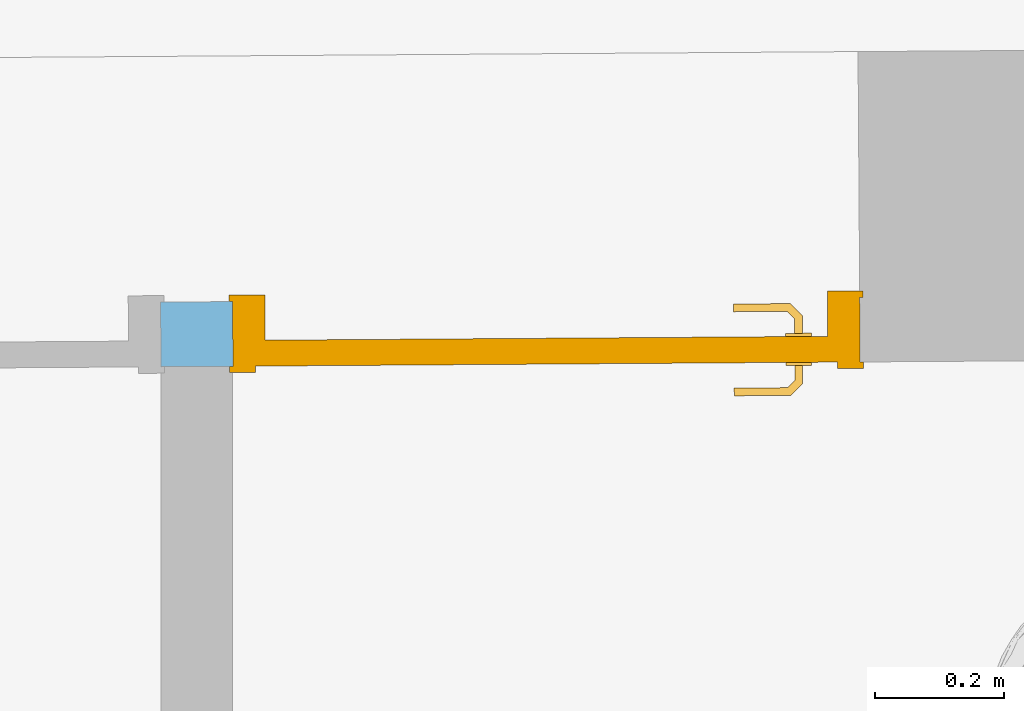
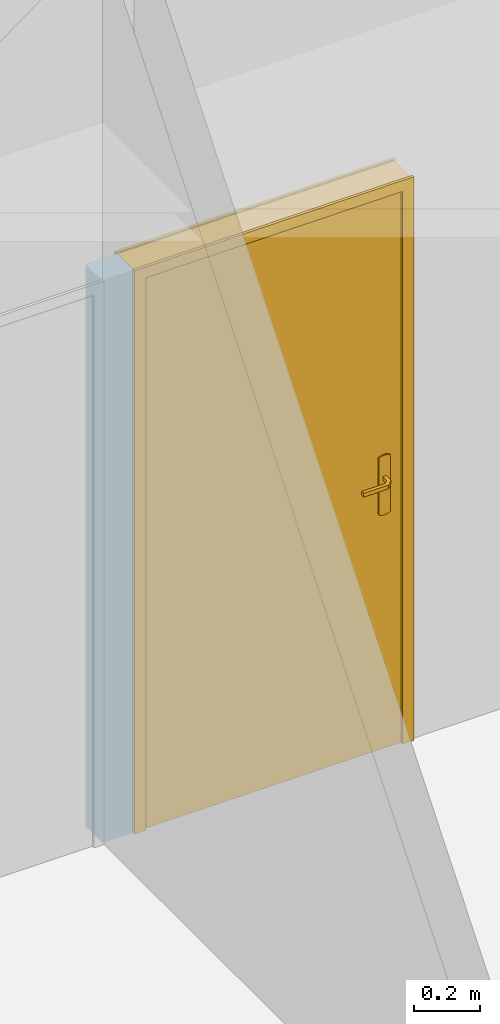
# One storey, part 40 of 128: 1 door, 2 openings, plus 1 element that does not belong to this part.
"""IFC2X3 building model written with IfcOpenShell, lengths in metres."""

from ifc_helpers import new_model, entity, si_unit, converted_unit, derived_unit, direction, frame, frame_2d, origin, place, context, subcontext, project, spatial, rectangle, extrude, faceted_brep, source, transform, mapped, material, layer, layer_set, layer_usage, type_object, type_shapes, element, fill, save


model = new_model("IFC2X3")

# Units and contexts
model_context = context("Model", 3, precision=1e-05, world=origin(), true_north=direction((6.123031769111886e-17, 1.0)))
body_context = subcontext(model_context, "Body", "Model", "MODEL_VIEW")
ifc_project = project(units=[si_unit("LENGTHUNIT", "METRE"), si_unit("AREAUNIT", "SQUARE_METRE"), converted_unit("PLANEANGLEUNIT", "DEGREE", entity("IfcPlaneAngleMeasure", 0.017453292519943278), si_unit("PLANEANGLEUNIT", "RADIAN"), dimensions=[0, 0, 0, 0, 0, 0, 0]), derived_unit("THERMALTRANSMITTANCEUNIT", [(si_unit("MASSUNIT", "GRAM", prefix="KILO"), 1), (si_unit("THERMODYNAMICTEMPERATUREUNIT", "KELVIN"), -1), (si_unit("TIMEUNIT", "SECOND"), -3)])], contexts=[model_context])

# Site, building, storey
site_placement = place(None, origin())
site = spatial("IfcSite", under=ifc_project, at=site_placement, Name="Default", CompositionType="ELEMENT")
building_placement = place(site_placement, origin())
building = spatial("IfcBuilding", under=site, at=building_placement, CompositionType="ELEMENT")
storey_placement = place(building_placement, origin())
storey = spatial("IfcBuildingStorey", under=building, at=storey_placement, Name="00_RDC CAF", CompositionType="ELEMENT", Elevation=2.4982504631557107e-13)

# Wall, openings, door
ifc_material_1 = material(Name="ARC - Cloison")
ifc_layer = layer(ifc_material_1, 0.1)
ifc_layer_set = layer_set([ifc_layer], Name="Mur de base:Cl_Platre_100mm")
ifc_layer_usage = layer_usage(ifc_layer_set, "AXIS2", "NEGATIVE", 0.05)
wall_type = type_object("IfcWallType", Name="Mur de base:Cl_Platre_100mm", PredefinedType="STANDARD", material=ifc_layer_set)
wall_placement = place(storey_placement, frame((28.64714088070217, 129.95834739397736, 0.0), z_axis=(0.0, 0.0, 1.0), x_axis=(0.9999764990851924, 0.006855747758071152, 0.0)))
wall = element("IfcWallStandardCase", 1, at=wall_placement, inside=storey, type_object=wall_type, material=ifc_layer_usage, Name="Mur de base:Cl_Platre_100mm", ObjectType="Mur de base:Cl_Platre_100mm", context=body_context, shape_type="SweptSolid", body=[
    extrude(rectangle(XDim=2.0512205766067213, YDim=0.09999999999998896, at=frame_2d((0.05561028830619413, -2.185751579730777e-15), x_axis=(1.0, 0.0))), origin(), (0.0, 0.0, 1.0), 2.074999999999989),
])
opening_1_placement = place(wall_placement, frame((1.0812205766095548, 0.05000000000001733, 0.0)))
opening_1 = element("IfcOpeningElement", 2, at=opening_1_placement, cuts=wall, Name="P_Recouvrement_Simple:P_Int_Simple_Pleine_900x2040mm:1", ObjectType="Opening", context=body_context, shape_type="SweptSolid", body=[
    extrude(rectangle(XDim=2.07500000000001, YDim=0.9699999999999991, at=frame_2d((1.037500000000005, 0.48499999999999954), x_axis=(1.0, 0.0))), frame((0.0, 0.0, 0.0), z_axis=(0.0, -1.0, 0.0), x_axis=(0.0, 0.0, 1.0)), (0.0, 0.0, 1.0), 0.1),
])
opening_2_placement = place(wall_placement, frame((0.0, 0.05000000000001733, 0.0)))
element("IfcOpeningElement", 3, at=opening_2_placement, cuts=wall, Name="P_Recouvrement_Simple:P_Int_Simple_Pleine_900x2040mm:1", ObjectType="Opening", context=body_context, shape_type="SweptSolid", body=[
    extrude(rectangle(XDim=2.07500000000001, YDim=0.9699999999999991, at=frame_2d((1.037500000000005, 0.48499999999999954), x_axis=(1.0, 0.0))), frame((0.0, 0.0, 0.0), z_axis=(0.0, -1.0, 0.0), x_axis=(0.0, 0.0, 1.0)), (0.0, 0.0, 1.0), 0.1),
])
ifc_material_2 = material(Name="ARC - M.In - Blanc")
door_style = type_object("IfcDoorStyle", Name="P_Recouvrement_Simple:P_Int_Simple_Pleine_900x2040mm", ConstructionType="NOTDEFINED", OperationType="NOTDEFINED", ParameterTakesPrecedence=False, Sizeable=False, material=ifc_material_2)
shared_shape = source(origin(), body_context, "Body", "Brep", [
    faceted_brep([(0.9429747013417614, 0.0449999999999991, 0.9922195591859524), (0.9470252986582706, 0.04499999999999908, 0.9922195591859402), (0.951000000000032, 0.04499999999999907, 0.9929999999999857), (0.9510000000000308, 0.04499999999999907, 1.0069999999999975), (0.9470252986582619, 0.04499999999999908, 1.0077804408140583), (0.9429747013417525, 0.0449999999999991, 1.0077804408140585), (0.9389999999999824, 0.04499999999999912, 1.0069999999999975), (0.9389999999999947, 0.04499999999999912, 0.9930000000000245), (0.9389999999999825, 0.06748520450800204, 1.0069999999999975), (0.9389999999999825, 0.06748520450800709, 0.9930000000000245), (0.9429747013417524, 0.06913157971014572, 1.0077804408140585), (0.9470252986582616, 0.07080939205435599, 1.0077804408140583), (0.9308389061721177, 0.08699578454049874, 1.0077804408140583), (0.9291610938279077, 0.08294518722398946, 1.0077804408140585), (0.9510000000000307, 0.07245576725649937, 1.0069999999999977), (0.951000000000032, 0.07245576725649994, 0.9929999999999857), (0.9470252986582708, 0.07080939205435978, 0.9922195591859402), (0.9429747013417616, 0.06913157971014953, 0.9922195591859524), (0.9291610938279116, 0.08294518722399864, 0.9922195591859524), (0.9308389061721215, 0.08699578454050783, 0.9922195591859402), (0.9275147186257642, 0.07897048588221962, 1.0069999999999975), (0.9275147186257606, 0.07897048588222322, 0.9930000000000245), (0.932485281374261, 0.09097048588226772, 1.0069999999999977), (0.9324852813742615, 0.09097048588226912, 0.9929999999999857), (0.8449542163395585, 0.08294518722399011, 1.0077804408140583), (0.8449542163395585, 0.08699578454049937, 1.007780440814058), (0.8449542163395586, 0.09097048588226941, 1.006999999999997), (0.8449542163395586, 0.0909704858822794, 0.9929999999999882), (0.8449542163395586, 0.08699578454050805, 0.99221955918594), (0.8449542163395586, 0.08294518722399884, 0.9922195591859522), (0.8449542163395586, 0.07897048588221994, 0.993000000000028), (0.8449542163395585, 0.0789704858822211, 1.0069999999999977), (0.8862344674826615, 0.07897048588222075, 1.0069999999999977), (0.8862344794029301, 0.07897048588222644, 0.9930000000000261), (0.8870576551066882, 0.08497048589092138, 1.0078786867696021), (0.8925547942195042, 0.09097048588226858, 1.0069999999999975), (0.8925547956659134, 0.09097048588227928, 0.9929999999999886), (0.8870576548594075, 0.08497048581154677, 0.9921213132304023)], [[[0, 1, 2, 3, 4, 5, 6, 7]], [[8, 9, 7, 6]], [[5, 10, 8, 6]], [[5, 4, 11, 12, 13, 10]], [[3, 14, 11, 4]], [[14, 3, 2, 15]], [[2, 1, 16, 15]], [[1, 0, 17, 18, 19, 16]], [[0, 7, 9, 17]], [[20, 21, 9, 8]], [[8, 10, 13, 20]], [[14, 22, 12, 11]], [[23, 22, 14, 15]], [[15, 16, 19, 23]], [[17, 9, 21, 18]], [[24, 25, 26, 27, 28, 29, 30, 31]], [[21, 20, 32, 31, 30, 33]], [[34, 24, 32]], [[25, 34, 35]], [[13, 32, 20]], [[24, 31, 32]], [[25, 35, 26]], [[35, 12, 22]], [[34, 12, 35]], [[34, 13, 12]], [[34, 32, 13]], [[24, 34, 25]], [[22, 23, 36, 27, 26, 35]], [[37, 28, 36]], [[36, 28, 27]], [[36, 23, 19]], [[18, 33, 37]], [[33, 18, 21]], [[30, 29, 33]], [[37, 29, 28]], [[37, 33, 29]], [[37, 36, 19]], [[18, 37, 19]]]),
    faceted_brep([(0.9429747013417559, -0.005000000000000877, 1.0077804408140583), (0.9470252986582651, -0.0050000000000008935, 1.0077804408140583), (0.9510000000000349, -0.005000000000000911, 1.0069999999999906), (0.9510000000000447, -0.005000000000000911, 0.9929999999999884), (0.9470252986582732, -0.0050000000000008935, 0.9922195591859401), (0.9429747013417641, -0.005000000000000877, 0.9922195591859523), (0.9389999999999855, -0.00500000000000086, 0.9930000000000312), (0.9389999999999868, -0.00500000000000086, 1.006999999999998), (0.9470252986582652, -0.0310045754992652, 1.0077804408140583), (0.9510000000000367, -0.0326509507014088, 1.0069999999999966), (0.942974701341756, -0.029326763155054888, 1.0077804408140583), (0.9292986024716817, -0.04300286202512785, 1.0077804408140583), (0.9309764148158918, -0.0470534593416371, 1.0077804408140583), (0.938999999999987, -0.027680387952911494, 1.006999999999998), (0.9389999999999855, -0.02768038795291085, 0.9930000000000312), (0.9429747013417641, -0.02932676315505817, 0.9922195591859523), (0.9470252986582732, -0.03100457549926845, 0.9922195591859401), (0.9309764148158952, -0.04705345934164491, 0.9922195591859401), (0.9292986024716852, -0.04300286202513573, 0.9922195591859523), (0.9510000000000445, -0.03265095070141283, 0.9929999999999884), (0.9326227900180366, -0.05102816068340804, 1.0069999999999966), (0.9276522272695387, -0.03902816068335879, 1.006999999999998), (0.927652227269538, -0.03902816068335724, 0.9930000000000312), (0.9326227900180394, -0.05102816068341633, 0.9929999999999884), (0.8449813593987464, -0.05102816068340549, 1.0069999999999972), (0.8449813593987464, -0.047053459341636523, 1.0077804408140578), (0.8449813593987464, -0.04300286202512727, 1.007780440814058), (0.8449813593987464, -0.0390281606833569, 1.0069999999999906), (0.8449813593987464, -0.03902816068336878, 0.9930000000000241), (0.8449813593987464, -0.04300286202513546, 0.992219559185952), (0.8449813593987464, -0.04705345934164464, 0.9922195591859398), (0.8449813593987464, -0.05102816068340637, 0.9929999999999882), (0.8871399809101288, -0.04502816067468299, 1.007878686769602), (0.8926923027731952, -0.051028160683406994, 1.0069999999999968), (0.8863167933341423, -0.03902816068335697, 1.0069999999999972), (0.8863167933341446, -0.03902816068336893, 0.9930000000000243), (0.8871399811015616, -0.045028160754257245, 0.9921213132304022), (0.8926923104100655, -0.05102816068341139, 0.9929999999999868)], [[[0, 1, 2, 3, 4, 5, 6, 7]], [[2, 1, 8, 9]], [[1, 0, 10, 11, 12, 8]], [[0, 7, 13, 10]], [[14, 13, 7, 6]], [[5, 15, 14, 6]], [[5, 4, 16, 17, 18, 15]], [[3, 19, 16, 4]], [[9, 19, 3, 2]], [[9, 8, 12, 20]], [[10, 13, 21, 11]], [[22, 21, 13, 14]], [[14, 15, 18, 22]], [[16, 19, 23, 17]], [[20, 23, 19, 9]], [[24, 25, 26, 27, 28, 29, 30, 31]], [[32, 25, 33]], [[33, 25, 24]], [[33, 20, 12]], [[11, 34, 32]], [[34, 11, 21]], [[27, 26, 34]], [[32, 26, 25]], [[32, 34, 26]], [[32, 33, 12]], [[11, 32, 12]], [[21, 22, 35, 28, 27, 34]], [[36, 29, 35]], [[30, 36, 37]], [[18, 35, 22]], [[29, 28, 35]], [[30, 37, 31]], [[37, 17, 23]], [[36, 17, 37]], [[36, 18, 17]], [[36, 35, 18]], [[29, 36, 30]], [[23, 20, 33, 24, 31, 37]]]),
    faceted_brep([(0.9650000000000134, 0.03999999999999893, 0.870000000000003), (0.9650000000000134, 0.03999999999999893, 1.0800000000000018), (0.9553527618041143, 0.039999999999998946, 1.0839960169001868), (0.9450000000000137, 0.039999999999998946, 1.0853589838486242), (0.934647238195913, 0.039999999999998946, 1.083996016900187), (0.925000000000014, 0.03999999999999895, 1.0800000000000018), (0.9250000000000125, 0.03999999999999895, 0.8700000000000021), (0.9346472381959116, 0.039999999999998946, 0.866003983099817), (0.9450000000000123, 0.039999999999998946, 0.8646410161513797), (0.955352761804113, 0.039999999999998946, 0.8660039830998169), (0.9450000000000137, 0.04499999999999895, 1.0853589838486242), (0.9553527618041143, 0.044999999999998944, 1.0839960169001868), (0.9650000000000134, 0.044999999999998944, 1.0800000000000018), (0.9650000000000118, 0.044999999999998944, 0.8700000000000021), (0.955352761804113, 0.044999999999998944, 0.8660039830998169), (0.9450000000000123, 0.04499999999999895, 0.8646410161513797), (0.9346472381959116, 0.04499999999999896, 0.866003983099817), (0.9250000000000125, 0.04499999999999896, 0.8700000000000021), (0.925000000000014, 0.04499999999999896, 1.0800000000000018), (0.934647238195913, 0.04499999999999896, 1.083996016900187)], [[[0, 1, 2, 3, 4, 5, 6, 7, 8, 9]], [[10, 11, 12, 13, 14, 15, 16, 17, 18, 19]], [[4, 19, 18, 5]], [[3, 10, 19, 4]], [[2, 11, 10, 3]], [[2, 1, 12, 11]], [[13, 12, 1, 0]], [[9, 14, 13, 0]], [[8, 15, 14, 9]], [[7, 16, 15, 8]], [[7, 6, 17, 16]], [[17, 6, 5, 18]]]),
    faceted_brep([(0.9650000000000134, -0.0050000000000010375, 0.8700000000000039), (0.9650000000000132, -0.0050000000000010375, 1.0800000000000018), (0.955352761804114, -0.0050000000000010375, 1.083996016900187), (0.9450000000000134, -0.005000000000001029, 1.0853589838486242), (0.9346472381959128, -0.005000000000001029, 1.0839960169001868), (0.9250000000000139, -0.005000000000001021, 1.0800000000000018), (0.9250000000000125, -0.005000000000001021, 0.8700000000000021), (0.9346472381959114, -0.005000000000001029, 0.866003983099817), (0.9450000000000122, -0.005000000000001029, 0.8646410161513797), (0.955352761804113, -0.0050000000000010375, 0.866003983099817), (0.9650000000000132, 0.0, 1.0800000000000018), (0.9650000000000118, 0.0, 0.8700000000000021), (0.955352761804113, 0.0, 0.866003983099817), (0.9450000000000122, 0.0, 0.8646410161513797), (0.9346472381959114, 0.0, 0.866003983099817), (0.9250000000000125, 0.0, 0.8700000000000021), (0.9250000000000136, 0.0, 1.0800000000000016), (0.9346472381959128, 0.0, 1.0839960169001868), (0.9450000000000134, 0.0, 1.0853589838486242), (0.955352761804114, 0.0, 1.083996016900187)], [[[0, 1, 2, 3, 4, 5, 6, 7, 8, 9]], [[10, 11, 12, 13, 14, 15, 16, 17, 18, 19]], [[9, 12, 11, 0]], [[8, 13, 12, 9]], [[7, 14, 13, 8]], [[7, 6, 15, 14]], [[15, 6, 5, 16]], [[4, 17, 16, 5]], [[3, 18, 17, 4]], [[2, 19, 18, 3]], [[2, 1, 10, 19]], [[11, 10, 1, 0]]]),
    faceted_brep([(1.0050000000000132, 0.0400000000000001, 2.04), (1.0050000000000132, 0.0400000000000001, 0.0), (0.10500000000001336, 0.0400000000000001, 0.0), (0.10500000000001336, 0.0400000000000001, 2.04), (1.0050000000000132, 0.0, 2.04), (0.10500000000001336, 0.0, 2.04), (0.10500000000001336, 0.0, 0.0), (1.0050000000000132, 0.0, 0.0)], [[[0, 1, 2, 3]], [[4, 5, 6, 7]], [[3, 5, 4, 0]], [[2, 6, 5, 3]], [[1, 7, 6, 2]], [[0, 4, 7, 1]]]),
    faceted_brep([(0.9900000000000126, 0.04000000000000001, 0.0), (0.9900000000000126, 0.1100000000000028, 0.0), (1.0450000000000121, 0.1100000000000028, 0.0), (1.0450000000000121, 0.1, 0.0), (1.0400000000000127, 0.1, 0.0), (1.0400000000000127, 0.0, 0.0), (1.0450000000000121, 0.0, 0.0), (1.0450000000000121, -0.009999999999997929, 0.0), (1.0050000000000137, -0.009999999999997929, 0.0), (1.0050000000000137, 0.04000000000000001, 0.0), (1.0050000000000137, 0.04000000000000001, 2.0400000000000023), (0.10500000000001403, 0.04000000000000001, 2.0400000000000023), (0.10500000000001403, 0.04000000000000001, 0.0), (0.12000000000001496, 0.04000000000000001, 0.0), (0.12000000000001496, 0.04000000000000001, 2.0250000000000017), (0.9900000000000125, 0.04000000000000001, 2.0250000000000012), (1.0050000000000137, -0.009999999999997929, 2.0400000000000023), (1.0450000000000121, -0.009999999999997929, 2.080000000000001), (0.06500000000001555, -0.009999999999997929, 2.080000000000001), (0.06500000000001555, -0.009999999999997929, 0.0), (0.10500000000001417, -0.009999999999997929, 0.0), (0.10500000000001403, -0.009999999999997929, 2.0400000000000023), (1.0450000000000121, 0.0, 2.080000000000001), (1.0400000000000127, 0.0, 2.0750000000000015), (0.07000000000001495, 0.0, 2.0750000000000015), (0.07000000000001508, 0.0, 0.0), (0.06500000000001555, 0.0, 0.0), (0.06500000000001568, 0.0, 2.080000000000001), (1.0400000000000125, 0.1, 2.0750000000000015), (1.0450000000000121, 0.1, 2.080000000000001), (0.06500000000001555, 0.1, 2.080000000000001), (0.0650000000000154, 0.1, 0.0), (0.07000000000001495, 0.1, 0.0), (0.07000000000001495, 0.1, 2.0750000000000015), (1.0450000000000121, 0.1100000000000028, 2.080000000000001), (0.9900000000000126, 0.1100000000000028, 2.0250000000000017), (0.12000000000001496, 0.1100000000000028, 2.0250000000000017), (0.1200000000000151, 0.1100000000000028, 0.0), (0.06500000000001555, 0.1100000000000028, 0.0), (0.06500000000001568, 0.1100000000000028, 2.080000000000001)], [[[0, 1, 2, 3, 4, 5, 6, 7, 8, 9]], [[9, 10, 11, 12, 13, 14, 15, 0]], [[8, 16, 10, 9]], [[7, 17, 18, 19, 20, 21, 16, 8]], [[6, 22, 17, 7]], [[5, 23, 24, 25, 26, 27, 22, 6]], [[4, 28, 23, 5]], [[3, 29, 30, 31, 32, 33, 28, 4]], [[2, 34, 29, 3]], [[1, 35, 36, 37, 38, 39, 34, 2]], [[0, 15, 35, 1]], [[14, 13, 37, 36]], [[13, 12, 20, 19, 26, 25, 32, 31, 38, 37]], [[21, 20, 12, 11]], [[27, 26, 19, 18]], [[33, 32, 25, 24]], [[39, 38, 31, 30]], [[16, 21, 11, 10]], [[22, 27, 18, 17]], [[28, 33, 24, 23]], [[34, 39, 30, 29]], [[15, 14, 36, 35]]]),
])
type_shapes(door_style, [shared_shape])
door_placement = place(opening_1_placement, frame((-1.0400000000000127, -0.10000000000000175, 0.0)))
door = element("IfcDoor", 4, at=door_placement, inside=storey, type_object=door_style, material=ifc_material_2, Name="P_Recouvrement_Simple:P_Int_Simple_Pleine_900x2040mm", ObjectType="P_Recouvrement_Simple:P_Int_Simple_Pleine_900x2040mm", OverallHeight=2.07500000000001, OverallWidth=0.9699999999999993, context=body_context, shape_type="MappedRepresentation", body=[
    mapped(shared_shape, transform((0.0, 0.0, 0.0), scale=1.0)),
])
fill(opening_1, door)

save(model, "model.ifc")
